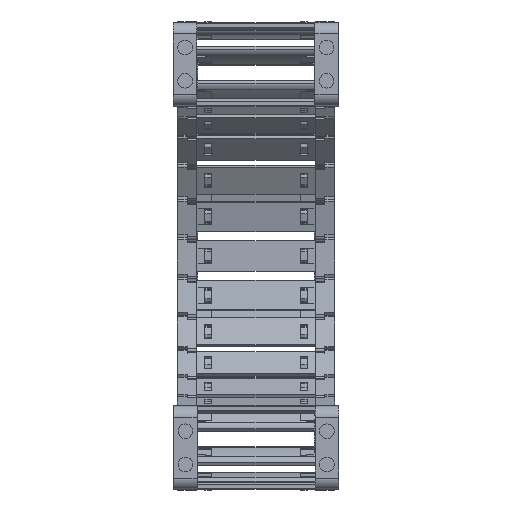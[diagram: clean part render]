
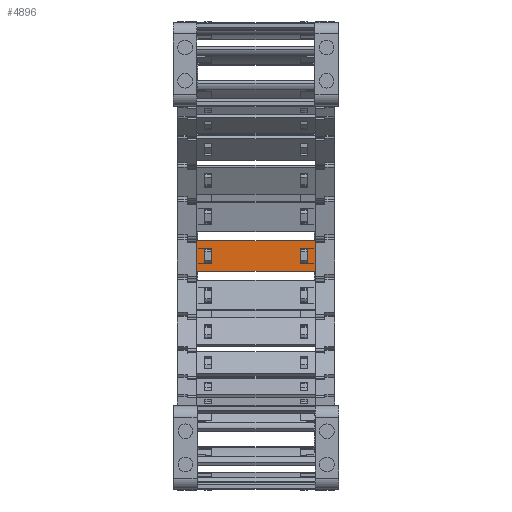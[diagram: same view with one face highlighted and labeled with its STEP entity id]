
A CAD part, left-side view. The second image highlights one B-rep face of the part: STEP entity #4896.
In plain terms, the highlighted planar face has unit normal (-1, 0, 0) as drawn and (0, 1, 0) by its records, which use the part's own axes.
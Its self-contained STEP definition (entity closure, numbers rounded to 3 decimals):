
#4022=DIRECTION('',(0.,0.,1.));
#4023=VECTOR('',#4022,15.8);
#4024=CARTESIAN_POINT('',(45.74,1.5,-7.9));
#4025=LINE('',#4024,#4023);
#4029=DIRECTION('',(-1.,0.,0.));
#4030=VECTOR('',#4029,60.5);
#4031=CARTESIAN_POINT('',(45.74,1.5,7.9));
#4032=LINE('',#4031,#4030);
#4036=DIRECTION('',(0.,0.,-1.));
#4037=VECTOR('',#4036,15.8);
#4038=CARTESIAN_POINT('',(-14.76,1.5,7.9));
#4039=LINE('',#4038,#4037);
#4043=DIRECTION('',(1.,0.,0.));
#4044=VECTOR('',#4043,3.648);
#4045=CARTESIAN_POINT('',(38.122,1.5,4.075));
#4046=LINE('',#4045,#4044);
#4050=DIRECTION('',(0.,0.,-1.));
#4051=VECTOR('',#4050,8.15);
#4052=CARTESIAN_POINT('',(41.77,1.5,4.075));
#4053=LINE('',#4052,#4051);
#4057=DIRECTION('',(-1.,0.,0.));
#4058=VECTOR('',#4057,3.648);
#4059=CARTESIAN_POINT('',(41.77,1.5,-4.075));
#4060=LINE('',#4059,#4058);
#4064=DIRECTION('',(0.,0.,-1.));
#4065=VECTOR('',#4064,8.15);
#4066=CARTESIAN_POINT('',(-7.142,1.5,4.075));
#4067=LINE('',#4066,#4065);
#4071=DIRECTION('',(-1.,0.,0.));
#4072=VECTOR('',#4071,3.648);
#4073=CARTESIAN_POINT('',(-7.142,1.5,-4.075));
#4074=LINE('',#4073,#4072);
#4078=DIRECTION('',(0.,0.,1.));
#4079=VECTOR('',#4078,8.15);
#4080=CARTESIAN_POINT('',(-10.79,1.5,-4.075));
#4081=LINE('',#4080,#4079);
#4085=DIRECTION('',(1.,0.,0.));
#4086=VECTOR('',#4085,3.648);
#4087=CARTESIAN_POINT('',(-10.79,1.5,4.075));
#4088=LINE('',#4087,#4086);
#4099=DIRECTION('',(-1.,0.,0.));
#4100=VECTOR('',#4099,60.5);
#4101=CARTESIAN_POINT('',(45.74,1.5,-7.9));
#4102=LINE('',#4101,#4100);
#4307=DIRECTION('',(0.,0.,-1.));
#4308=VECTOR('',#4307,8.15);
#4309=CARTESIAN_POINT('',(38.122,1.5,4.075));
#4310=LINE('',#4309,#4308);
#4606=CARTESIAN_POINT('',(41.77,1.5,4.075));
#4607=VERTEX_POINT('',#4606);
#4608=CARTESIAN_POINT('',(38.122,1.5,4.075));
#4609=VERTEX_POINT('',#4608);
#4650=CARTESIAN_POINT('',(38.122,1.5,-4.075));
#4651=VERTEX_POINT('',#4650);
#4652=CARTESIAN_POINT('',(41.77,1.5,-4.075));
#4653=VERTEX_POINT('',#4652);
#4654=CARTESIAN_POINT('',(45.74,1.5,7.9));
#4656=VERTEX_POINT('',#4654);
#4658=CARTESIAN_POINT('',(45.74,1.5,-7.9));
#4659=VERTEX_POINT('',#4658);
#4682=CARTESIAN_POINT('',(-7.142,1.5,4.075));
#4683=CARTESIAN_POINT('',(-7.142,1.5,-4.075));
#4684=VERTEX_POINT('',#4682);
#4685=VERTEX_POINT('',#4683);
#4686=CARTESIAN_POINT('',(-10.79,1.5,-4.075));
#4687=VERTEX_POINT('',#4686);
#4688=CARTESIAN_POINT('',(-10.79,1.5,4.075));
#4689=VERTEX_POINT('',#4688);
#4690=CARTESIAN_POINT('',(-14.76,1.5,7.9));
#4691=VERTEX_POINT('',#4690);
#4694=CARTESIAN_POINT('',(-14.76,1.5,-7.9));
#4695=VERTEX_POINT('',#4694);
#4865=CARTESIAN_POINT('',(77.48,1.5,10.061));
#4866=DIRECTION('',(0.,-1.,0.));
#4867=DIRECTION('',(0.,0.,-1.));
#4868=AXIS2_PLACEMENT_3D('',#4865,#4866,#4867);
#4869=PLANE('',#4868);
#4870=ORIENTED_EDGE('',*,*,#4768,.T.);
#4871=ORIENTED_EDGE('',*,*,#4806,.T.);
#4872=ORIENTED_EDGE('',*,*,#4831,.T.);
#4874=ORIENTED_EDGE('',*,*,#4873,.F.);
#4875=EDGE_LOOP('',(#4870,#4871,#4872,#4874));
#4876=FACE_OUTER_BOUND('',#4875,.F.);
#4878=ORIENTED_EDGE('',*,*,#4877,.F.);
#4879=ORIENTED_EDGE('',*,*,#4707,.T.);
#4881=ORIENTED_EDGE('',*,*,#4880,.T.);
#4883=ORIENTED_EDGE('',*,*,#4882,.T.);
#4884=EDGE_LOOP('',(#4878,#4879,#4881,#4883));
#4885=FACE_BOUND('',#4884,.F.);
#4887=ORIENTED_EDGE('',*,*,#4886,.T.);
#4889=ORIENTED_EDGE('',*,*,#4888,.T.);
#4891=ORIENTED_EDGE('',*,*,#4890,.T.);
#4893=ORIENTED_EDGE('',*,*,#4892,.T.);
#4894=EDGE_LOOP('',(#4887,#4889,#4891,#4893));
#4895=FACE_BOUND('',#4894,.F.);
#4896=ADVANCED_FACE('',(#4876,#4885,#4895),#4869,.F.);
#4707=EDGE_CURVE('',#4609,#4607,#4046,.T.);
#4768=EDGE_CURVE('',#4659,#4656,#4025,.T.);
#4806=EDGE_CURVE('',#4656,#4691,#4032,.T.);
#4831=EDGE_CURVE('',#4691,#4695,#4039,.T.);
#4873=EDGE_CURVE('',#4659,#4695,#4102,.T.);
#4877=EDGE_CURVE('',#4609,#4651,#4310,.T.);
#4880=EDGE_CURVE('',#4607,#4653,#4053,.T.);
#4882=EDGE_CURVE('',#4653,#4651,#4060,.T.);
#4886=EDGE_CURVE('',#4684,#4685,#4067,.T.);
#4888=EDGE_CURVE('',#4685,#4687,#4074,.T.);
#4890=EDGE_CURVE('',#4687,#4689,#4081,.T.);
#4892=EDGE_CURVE('',#4689,#4684,#4088,.T.);
